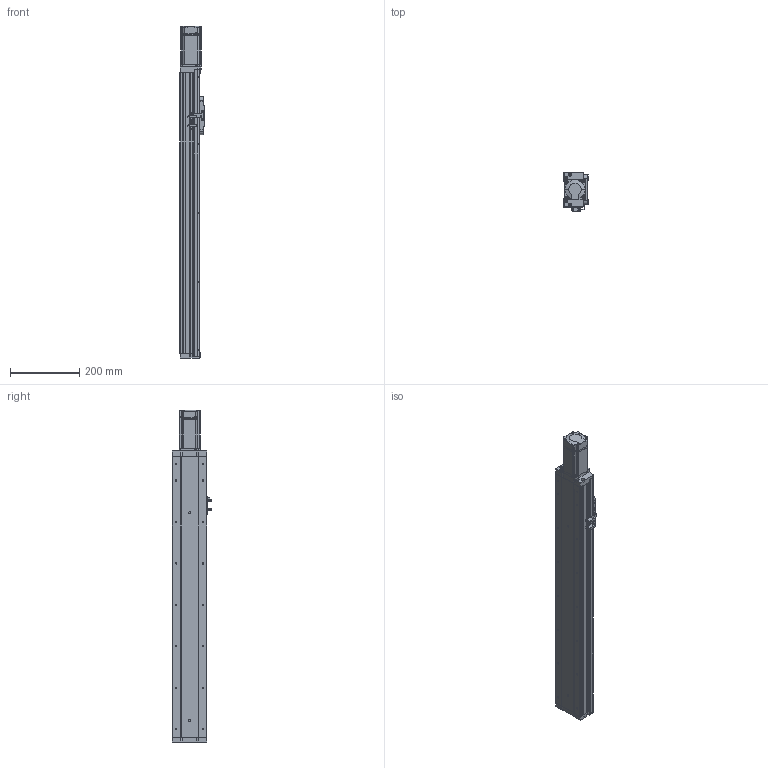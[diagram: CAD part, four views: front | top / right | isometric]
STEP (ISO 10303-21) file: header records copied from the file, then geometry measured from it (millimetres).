
FILE_DESCRIPTION (( 'STEP AP214' ), '1' );
FILE_NAME ('KSD100S-S600-MN-CR.STEP', '2019-09-02T09:23:33', ( '微软用户' ), ( '微软中国' ), 'SwSTEP 2.0', 'SolidWorks 2014', '' );
FILE_SCHEMA (( 'AUTOMOTIVE_DESIGN' ));
Length unit declared in the file: millimetre
Products named in the file (12): 100宽侧板600行程不带电机座; 100宽底板全封闭600行程不带电机座; KSD100S-S600-MN-CR; MHMD042G1CA_2_03; U倰嫖萇EEㄜSX672; 感应片100宽全封闭; 100宽马达安装板全封闭不带电机座; 100宽端板全封闭; 100宽滚珠螺姆安装板1防护罩; 100宽滚珠螺姆安装板1; 100宽盖板压板不带电机座; 100宽盖板600行程不带电机座
Assembly tree (14 placements, depth 2):
  KSD100S-S600-MN-CR
    100宽底板全封闭600行程不带电机座
    100宽侧板600行程不带电机座  x2
    100宽盖板600行程不带电机座
    100宽盖板压板不带电机座  x2
    100宽滚珠螺姆安装板1
    100宽滚珠螺姆安装板1防护罩
    100宽端板全封闭
    100宽马达安装板全封闭不带电机座
    感应片100宽全封闭
    U倰嫖萇EEㄜSX672  x2
    MHMD042G1CA_2_03
Bounding box: 70 x 113.7 x 960.5 mm (x, y, z)
Volume: 1675929.7 mm3; surface area: 742749.6 mm2
Topology: 13 solids, 14 shells, 1420 faces, 3982 edges, 2536 vertices
Faces by surface type: cylinder 603, plane 586, cone 213, bspline 18
Entity records: 51916 total; most frequent: CARTESIAN_POINT 8114, DIRECTION 7101, ORIENTED_EDGE 6616, EDGE_CURVE 3380, AXIS2_PLACEMENT_3D 2519, VERTEX_POINT 2242, LINE 2063, VECTOR 2063
